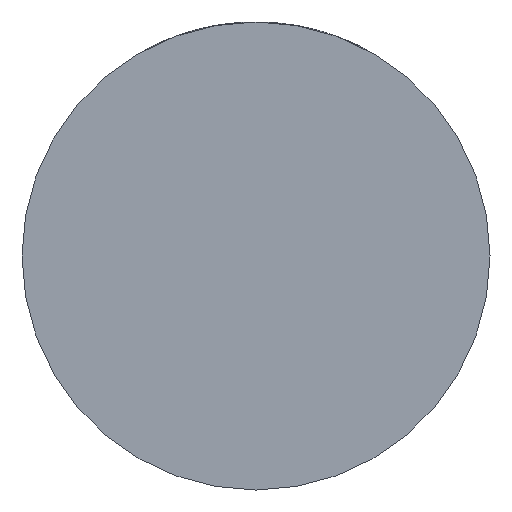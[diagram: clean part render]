
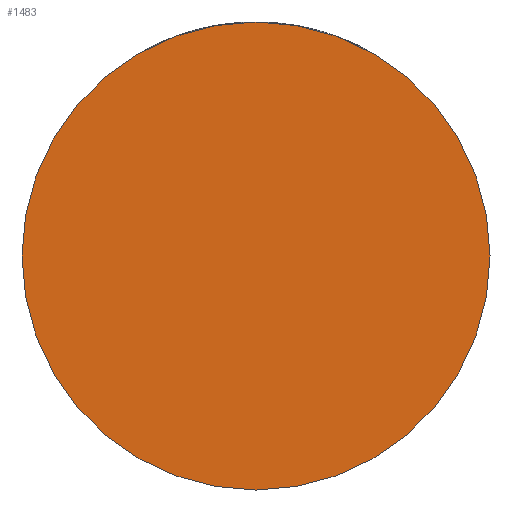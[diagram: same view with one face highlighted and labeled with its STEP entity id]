
A CAD part, front view. The second image highlights one B-rep face of the part: STEP entity #1483.
In plain terms, the highlighted planar face has unit normal (0, -1, 0).
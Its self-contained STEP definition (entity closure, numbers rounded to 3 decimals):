
#25 = CIRCLE ( 'NONE', #669, 39. ) ;
#153 = CARTESIAN_POINT ( 'NONE',  ( 0., -36., 0. ) ) ;
#657 = VERTEX_POINT ( 'NONE', #3002 ) ;
#669 = AXIS2_PLACEMENT_3D ( 'NONE', #153, #2221, #2875 ) ;
#808 = DIRECTION ( 'NONE',  ( 1., 0., 0. ) ) ;
#871 = CARTESIAN_POINT ( 'NONE',  ( 0., -36., 0. ) ) ;
#1161 = CARTESIAN_POINT ( 'NONE',  ( 0., -36., 0. ) ) ;
#1307 = CARTESIAN_POINT ( 'NONE',  ( -39., -36., 0. ) ) ;
#1483 = ADVANCED_FACE ( 'NONE', ( #3462 ), #4249, .T. ) ;
#1521 = DIRECTION ( 'NONE',  ( 0., -1., 0. ) ) ;
#1561 = EDGE_CURVE ( 'NONE', #657, #1684, #3374, .T. ) ;
#1684 = VERTEX_POINT ( 'NONE', #1307 ) ;
#1719 = ORIENTED_EDGE ( 'NONE', *, *, #2355, .T. ) ;
#2221 = DIRECTION ( 'NONE',  ( 0., -1., 0. ) ) ;
#2355 = EDGE_CURVE ( 'NONE', #1684, #657, #25, .T. ) ;
#2875 = DIRECTION ( 'NONE',  ( 1., 0., 0. ) ) ;
#3002 = CARTESIAN_POINT ( 'NONE',  ( 39., -36., 0. ) ) ;
#3374 = CIRCLE ( 'NONE', #4318, 39. ) ;
#3462 = FACE_OUTER_BOUND ( 'NONE', #3805, .T. ) ;
#3732 = AXIS2_PLACEMENT_3D ( 'NONE', #1161, #3880, #808 ) ;
#3805 = EDGE_LOOP ( 'NONE', ( #1719, #3976 ) ) ;
#3880 = DIRECTION ( 'NONE',  ( 0., -1., 0. ) ) ;
#3976 = ORIENTED_EDGE ( 'NONE', *, *, #1561, .T. ) ;
#4249 = PLANE ( 'NONE',  #3732 ) ;
#4318 = AXIS2_PLACEMENT_3D ( 'NONE', #871, #1521, #4321 ) ;
#4321 = DIRECTION ( 'NONE',  ( 1., 0., 0. ) ) ;
